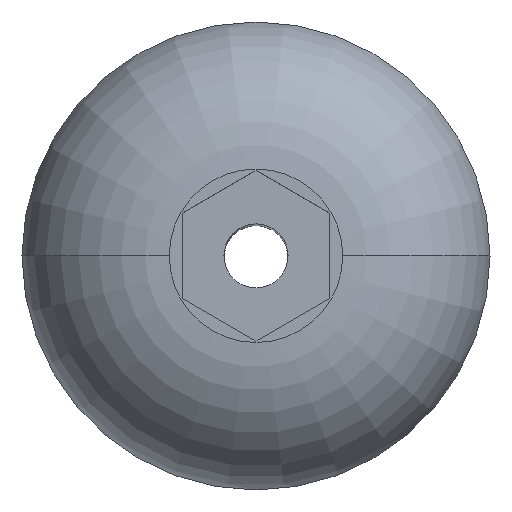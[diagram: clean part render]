
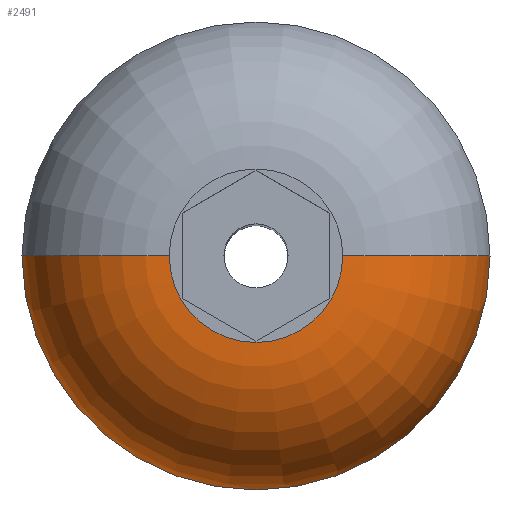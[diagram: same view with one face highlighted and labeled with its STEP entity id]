
A CAD part, top view. The second image highlights one B-rep face of the part: STEP entity #2491.
In plain terms, the highlighted toroidal (fillet/blend) face has major radius 1.76 mm and minor radius 3 mm.
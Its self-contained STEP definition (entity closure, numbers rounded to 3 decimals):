
#58 = ORIENTED_EDGE ( 'NONE', *, *, #2861, .F. ) ;
#350 = EDGE_CURVE ( 'NONE', #1071, #2509, #909, .T. ) ;
#378 = CARTESIAN_POINT ( 'NONE',  ( -1.76, 0., 2.75 ) ) ;
#382 = AXIS2_PLACEMENT_3D ( 'NONE', #1022, #1225, #2788 ) ;
#393 = AXIS2_PLACEMENT_3D ( 'NONE', #2465, #1132, #1587 ) ;
#396 = AXIS2_PLACEMENT_3D ( 'NONE', #2258, #2483, #1066 ) ;
#453 = CARTESIAN_POINT ( 'NONE',  ( 4.75, 0., 0. ) ) ;
#466 = VERTEX_POINT ( 'NONE', #2305 ) ;
#517 = CARTESIAN_POINT ( 'NONE',  ( 0., 0., 0. ) ) ;
#654 = CARTESIAN_POINT ( 'NONE',  ( 0., 0., -0.25 ) ) ;
#740 = DIRECTION ( 'NONE',  ( 1., 0., 0. ) ) ;
#862 = DIRECTION ( 'NONE',  ( 0., 0., 1. ) ) ;
#897 = ORIENTED_EDGE ( 'NONE', *, *, #2463, .F. ) ;
#909 = CIRCLE ( 'NONE', #393, 3. ) ;
#1022 = CARTESIAN_POINT ( 'NONE',  ( -1.76, 0., -0.25 ) ) ;
#1066 = DIRECTION ( 'NONE',  ( 1., 0., 0. ) ) ;
#1071 = VERTEX_POINT ( 'NONE', #453 ) ;
#1110 = DIRECTION ( 'NONE',  ( 1., 0., 0. ) ) ;
#1132 = DIRECTION ( 'NONE',  ( 0., -1., 0. ) ) ;
#1225 = DIRECTION ( 'NONE',  ( 0., 1., 0. ) ) ;
#1298 = CARTESIAN_POINT ( 'NONE',  ( 1.76, 0., 2.75 ) ) ;
#1305 = EDGE_CURVE ( 'NONE', #466, #1071, #2518, .T. ) ;
#1571 = VERTEX_POINT ( 'NONE', #378 ) ;
#1587 = DIRECTION ( 'NONE',  ( 0., 0., -1. ) ) ;
#1588 = AXIS2_PLACEMENT_3D ( 'NONE', #654, #862, #1110 ) ;
#1696 = EDGE_LOOP ( 'NONE', ( #58, #2763, #2618, #897 ) ) ;
#1701 = CIRCLE ( 'NONE', #382, 3. ) ;
#1834 = DIRECTION ( 'NONE',  ( 0., 0., 1. ) ) ;
#1949 = FACE_OUTER_BOUND ( 'NONE', #1696, .T. ) ;
#1968 = AXIS2_PLACEMENT_3D ( 'NONE', #517, #1834, #740 ) ;
#2019 = CIRCLE ( 'NONE', #396, 1.76 ) ;
#2258 = CARTESIAN_POINT ( 'NONE',  ( 0., 0., 2.75 ) ) ;
#2305 = CARTESIAN_POINT ( 'NONE',  ( -4.75, 0., 0. ) ) ;
#2463 = EDGE_CURVE ( 'NONE', #1571, #2509, #2019, .T. ) ;
#2465 = CARTESIAN_POINT ( 'NONE',  ( 1.76, 0., -0.25 ) ) ;
#2483 = DIRECTION ( 'NONE',  ( 0., 0., 1. ) ) ;
#2491 = ADVANCED_FACE ( 'NONE', ( #1949 ), #2803, .T. ) ;
#2509 = VERTEX_POINT ( 'NONE', #1298 ) ;
#2518 = CIRCLE ( 'NONE', #1968, 4.75 ) ;
#2618 = ORIENTED_EDGE ( 'NONE', *, *, #350, .T. ) ;
#2763 = ORIENTED_EDGE ( 'NONE', *, *, #1305, .T. ) ;
#2788 = DIRECTION ( 'NONE',  ( -1., 0., 0. ) ) ;
#2803 = TOROIDAL_SURFACE ( 'NONE', #1588, 1.76, 3. ) ;
#2861 = EDGE_CURVE ( 'NONE', #466, #1571, #1701, .T. ) ;
